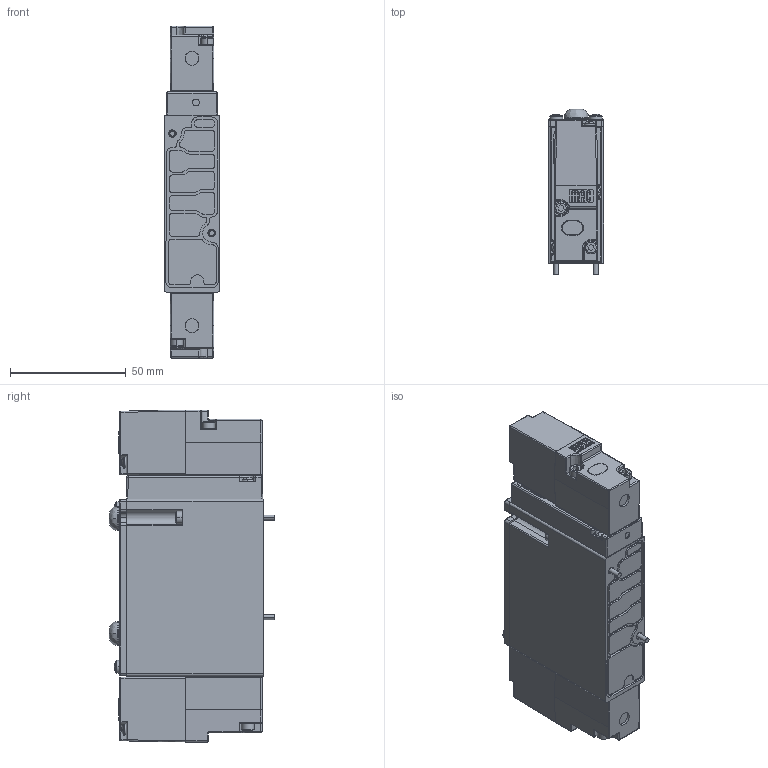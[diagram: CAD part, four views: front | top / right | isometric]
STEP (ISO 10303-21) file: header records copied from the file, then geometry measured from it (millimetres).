
FILE_DESCRIPTION (( 'STEP AP214' ), '1' );
FILE_NAME ('92A-BAA-000-DM-DXXP-1DM.STEP', '2019-08-09T13:12:37', ( '' ), ( '' ), 'SwSTEP 2.0', 'SolidWorks 2014', '' );
FILE_SCHEMA (( 'AUTOMOTIVE_DESIGN' ));
Length unit declared in the file: inch
Products named in the file (5): 92-PILOT-DM3; 92-BODY-BAA; 92-OVERRIDE-1; 92-OPERATOR-DXXP-YDM; 92A-BAA-000-DM-DXXP-1DM
Assembly tree (7 placements, depth 2):
  92A-BAA-000-DM-DXXP-1DM
    92-OPERATOR-DXXP-YDM  x2
    92-OVERRIDE-1  x2
    92-BODY-BAA
    92-PILOT-DM3  x2
Bounding box: 24 x 71.6 x 143.5 mm (x, y, z)
Volume: 152690.2 mm3; surface area: 57014.1 mm2
Topology: 23 solids, 33 shells, 2612 faces, 6778 edges, 4392 vertices
Faces by surface type: plane 1297, cylinder 803, cone 332, bspline 174, torus 4, sphere 2
Entity records: 83925 total; most frequent: CARTESIAN_POINT 15420, ORIENTED_EDGE 9416, DIRECTION 9221, EDGE_CURVE 4710, AXIS2_PLACEMENT_3D 3206, VERTEX_POINT 3065, VECTOR 2809, LINE 2809
